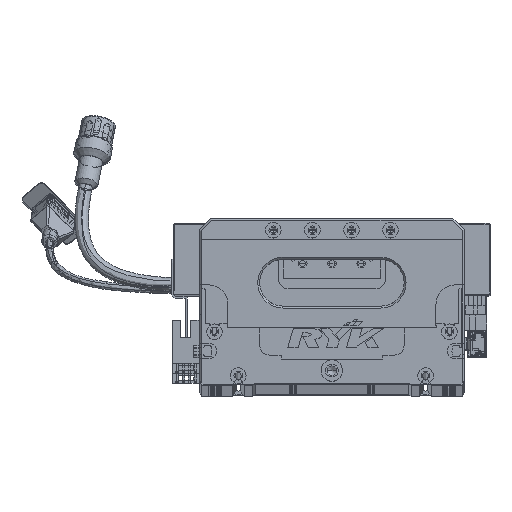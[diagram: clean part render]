
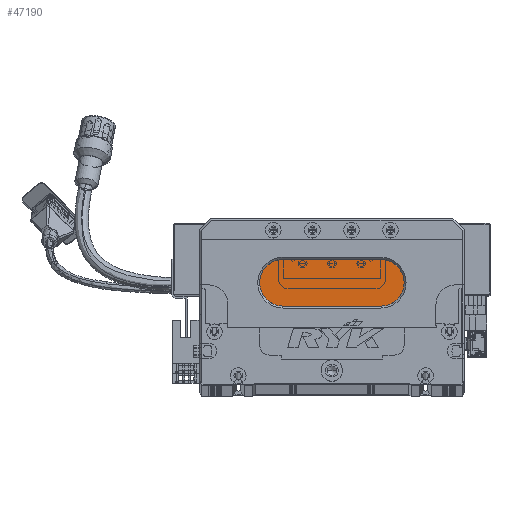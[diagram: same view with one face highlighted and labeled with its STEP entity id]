
A CAD part, top view. The second image highlights one B-rep face of the part: STEP entity #47190.
In plain terms, the highlighted planar face has unit normal (0, 0, 1) as drawn and (0, 0, -1) by its records, which use the part's own axes.
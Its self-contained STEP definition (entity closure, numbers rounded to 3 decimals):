
#116 = EDGE_CURVE ( 'NONE', #135781, #15009, #35563, .T. ) ;
#3129 = PLANE ( 'NONE',  #15077 ) ;
#4148 = CARTESIAN_POINT ( 'NONE',  ( 93., 52., 13. ) ) ;
#6562 = DIRECTION ( 'NONE',  ( 1., 0., 0. ) ) ;
#11951 = DIRECTION ( 'NONE',  ( 0., 0., -1. ) ) ;
#12445 = DIRECTION ( 'NONE',  ( -1., 0., 0. ) ) ;
#14466 = CARTESIAN_POINT ( 'NONE',  ( 93., 40., 13. ) ) ;
#14871 = CARTESIAN_POINT ( 'NONE',  ( 93., 52., 13. ) ) ;
#15009 = VERTEX_POINT ( 'NONE', #14466 ) ;
#15077 = AXIS2_PLACEMENT_3D ( 'NONE', #14871, #38930, #132825 ) ;
#32206 = CIRCLE ( 'NONE', #85198, 12. ) ;
#35563 = CIRCLE ( 'NONE', #144935, 12. ) ;
#35928 = DIRECTION ( 'NONE',  ( -1., 0., 0. ) ) ;
#38930 = DIRECTION ( 'NONE',  ( 0., 0., -1. ) ) ;
#41913 = CIRCLE ( 'NONE', #66879, 12. ) ;
#43737 = VERTEX_POINT ( 'NONE', #89079 ) ;
#44490 = VERTEX_POINT ( 'NONE', #136644 ) ;
#47190 = ADVANCED_FACE ( 'NONE', ( #90854 ), #3129, .T. ) ;
#55493 = CARTESIAN_POINT ( 'NONE',  ( 43., 52., 13. ) ) ;
#57210 = CARTESIAN_POINT ( 'NONE',  ( 93., 64., 13. ) ) ;
#61503 = DIRECTION ( 'NONE',  ( -1., 0., 0. ) ) ;
#65808 = VERTEX_POINT ( 'NONE', #84541 ) ;
#66879 = AXIS2_PLACEMENT_3D ( 'NONE', #77490, #113964, #124258 ) ;
#69547 = ORIENTED_EDGE ( 'NONE', *, *, #82544, .T. ) ;
#77490 = CARTESIAN_POINT ( 'NONE',  ( 43., 52., 13. ) ) ;
#79002 = LINE ( 'NONE', #117548, #102802 ) ;
#82544 = EDGE_CURVE ( 'NONE', #43737, #135781, #147417, .T. ) ;
#84541 = CARTESIAN_POINT ( 'NONE',  ( 31., 52., 13. ) ) ;
#85198 = AXIS2_PLACEMENT_3D ( 'NONE', #55493, #11951, #12445 ) ;
#86138 = DIRECTION ( 'NONE',  ( 0., 0., -1. ) ) ;
#89079 = CARTESIAN_POINT ( 'NONE',  ( 43., 64., 13. ) ) ;
#90854 = FACE_OUTER_BOUND ( 'NONE', #111955, .T. ) ;
#99299 = CARTESIAN_POINT ( 'NONE',  ( 93., 64., 13. ) ) ;
#99538 = EDGE_CURVE ( 'NONE', #44490, #65808, #41913, .T. ) ;
#102802 = VECTOR ( 'NONE', #35928, 1000. ) ;
#104095 = ORIENTED_EDGE ( 'NONE', *, *, #99538, .T. ) ;
#106131 = EDGE_CURVE ( 'NONE', #15009, #44490, #79002, .T. ) ;
#111118 = ORIENTED_EDGE ( 'NONE', *, *, #116, .T. ) ;
#111955 = EDGE_LOOP ( 'NONE', ( #111118, #119874, #104095, #148055, #69547 ) ) ;
#113964 = DIRECTION ( 'NONE',  ( 0., 0., -1. ) ) ;
#117548 = CARTESIAN_POINT ( 'NONE',  ( 93., 40., 13. ) ) ;
#119874 = ORIENTED_EDGE ( 'NONE', *, *, #106131, .T. ) ;
#124258 = DIRECTION ( 'NONE',  ( -1., 0., 0. ) ) ;
#125556 = VECTOR ( 'NONE', #6562, 1000. ) ;
#127534 = EDGE_CURVE ( 'NONE', #65808, #43737, #32206, .T. ) ;
#132825 = DIRECTION ( 'NONE',  ( -1., 0., 0. ) ) ;
#135781 = VERTEX_POINT ( 'NONE', #57210 ) ;
#136644 = CARTESIAN_POINT ( 'NONE',  ( 43., 40., 13. ) ) ;
#144935 = AXIS2_PLACEMENT_3D ( 'NONE', #4148, #86138, #61503 ) ;
#147417 = LINE ( 'NONE', #99299, #125556 ) ;
#148055 = ORIENTED_EDGE ( 'NONE', *, *, #127534, .T. ) ;
